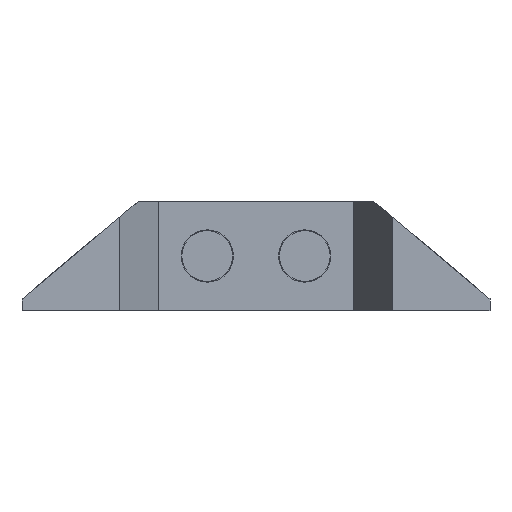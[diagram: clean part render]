
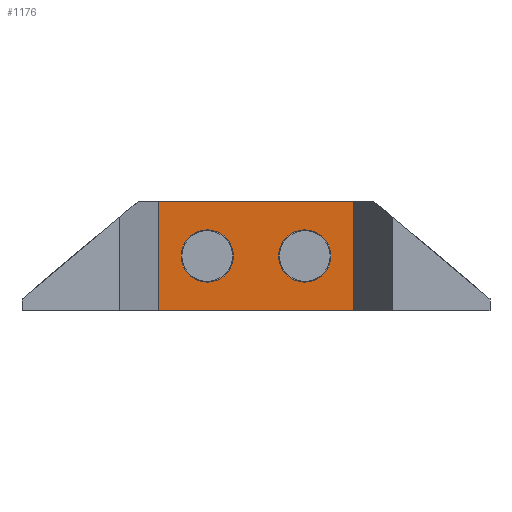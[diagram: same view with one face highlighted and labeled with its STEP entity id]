
A CAD part, front view. The second image highlights one B-rep face of the part: STEP entity #1176.
In plain terms, the highlighted planar face has unit normal (0, -1, 0).
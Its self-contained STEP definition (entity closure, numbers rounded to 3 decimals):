
#22 = VERTEX_POINT('',#23);
#23 = CARTESIAN_POINT('',(25.,-40.,0.));
#31 = EDGE_CURVE('',#22,#32,#34,.T.);
#32 = VERTEX_POINT('',#33);
#33 = CARTESIAN_POINT('',(25.,-40.,28.));
#34 = LINE('',#35,#36);
#35 = CARTESIAN_POINT('',(25.,-40.,0.));
#36 = VECTOR('',#37,1.);
#37 = DIRECTION('',(0.,0.,1.));
#80 = VERTEX_POINT('',#81);
#81 = CARTESIAN_POINT('',(-25.,-40.,0.));
#87 = EDGE_CURVE('',#80,#22,#88,.T.);
#88 = LINE('',#89,#90);
#89 = CARTESIAN_POINT('',(-25.,-40.,0.));
#90 = VECTOR('',#91,1.);
#91 = DIRECTION('',(1.,0.,0.));
#637 = VERTEX_POINT('',#638);
#638 = CARTESIAN_POINT('',(-25.,-40.,28.));
#644 = EDGE_CURVE('',#637,#32,#645,.T.);
#645 = LINE('',#646,#647);
#646 = CARTESIAN_POINT('',(-25.,-40.,28.));
#647 = VECTOR('',#648,1.);
#648 = DIRECTION('',(1.,0.,0.));
#1176 = ADVANCED_FACE('',(#1177,#1188,#1199),#1210,.T.);
#1177 = FACE_BOUND('',#1178,.T.);
#1178 = EDGE_LOOP('',(#1179,#1185,#1186,#1187));
#1179 = ORIENTED_EDGE('',*,*,#1180,.F.);
#1180 = EDGE_CURVE('',#80,#637,#1181,.T.);
#1181 = LINE('',#1182,#1183);
#1182 = CARTESIAN_POINT('',(-25.,-40.,0.));
#1183 = VECTOR('',#1184,1.);
#1184 = DIRECTION('',(0.,0.,1.));
#1185 = ORIENTED_EDGE('',*,*,#87,.T.);
#1186 = ORIENTED_EDGE('',*,*,#31,.T.);
#1187 = ORIENTED_EDGE('',*,*,#644,.F.);
#1188 = FACE_BOUND('',#1189,.T.);
#1189 = EDGE_LOOP('',(#1190));
#1190 = ORIENTED_EDGE('',*,*,#1191,.T.);
#1191 = EDGE_CURVE('',#1192,#1192,#1194,.T.);
#1192 = VERTEX_POINT('',#1193);
#1193 = CARTESIAN_POINT('',(-5.8,-40.,14.));
#1194 = CIRCLE('',#1195,6.7);
#1195 = AXIS2_PLACEMENT_3D('',#1196,#1197,#1198);
#1196 = CARTESIAN_POINT('',(-12.5,-40.,14.));
#1197 = DIRECTION('',(0.,1.,0.));
#1198 = DIRECTION('',(1.,0.,0.));
#1199 = FACE_BOUND('',#1200,.T.);
#1200 = EDGE_LOOP('',(#1201));
#1201 = ORIENTED_EDGE('',*,*,#1202,.T.);
#1202 = EDGE_CURVE('',#1203,#1203,#1205,.T.);
#1203 = VERTEX_POINT('',#1204);
#1204 = CARTESIAN_POINT('',(19.2,-40.,14.));
#1205 = CIRCLE('',#1206,6.7);
#1206 = AXIS2_PLACEMENT_3D('',#1207,#1208,#1209);
#1207 = CARTESIAN_POINT('',(12.5,-40.,14.));
#1208 = DIRECTION('',(0.,1.,0.));
#1209 = DIRECTION('',(1.,0.,0.));
#1210 = PLANE('',#1211);
#1211 = AXIS2_PLACEMENT_3D('',#1212,#1213,#1214);
#1212 = CARTESIAN_POINT('',(0.,-40.,14.));
#1213 = DIRECTION('',(-0.,-1.,-0.));
#1214 = DIRECTION('',(0.,0.,-1.));
